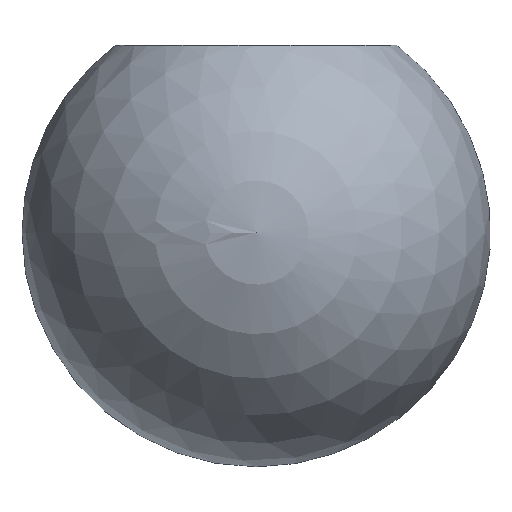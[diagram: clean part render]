
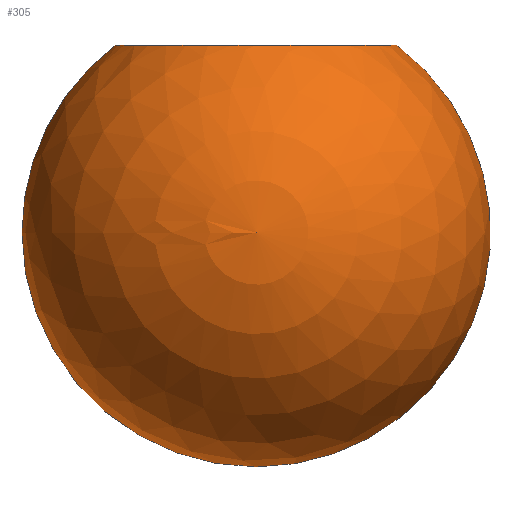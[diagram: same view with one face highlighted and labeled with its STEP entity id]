
A CAD part, left-side view. The second image highlights one B-rep face of the part: STEP entity #305.
In plain terms, the highlighted spherical face has radius 12.5 mm.
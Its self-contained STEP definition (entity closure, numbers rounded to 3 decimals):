
#8 = DIRECTION ( 'NONE',  ( 1., 0., 0. ) ) ;
#28 = CIRCLE ( 'NONE', #66, 12.5 ) ;
#65 = VERTEX_POINT ( 'NONE', #127 ) ;
#66 = AXIS2_PLACEMENT_3D ( 'NONE', #79, #69, #244 ) ;
#69 = DIRECTION ( 'NONE',  ( -1., 0., 0. ) ) ;
#78 = FACE_OUTER_BOUND ( 'NONE', #181, .T. ) ;
#79 = CARTESIAN_POINT ( 'NONE',  ( 0., 0., -10. ) ) ;
#91 = AXIS2_PLACEMENT_3D ( 'NONE', #98, #274, #297 ) ;
#98 = CARTESIAN_POINT ( 'NONE',  ( 0., 0., 0. ) ) ;
#122 = CARTESIAN_POINT ( 'NONE',  ( 0., 0., -10. ) ) ;
#127 = CARTESIAN_POINT ( 'NONE',  ( 0., 7.5, 0. ) ) ;
#145 = CIRCLE ( 'NONE', #338, 12.5 ) ;
#181 = EDGE_LOOP ( 'NONE', ( #200, #312, #472 ) ) ;
#189 = VERTEX_POINT ( 'NONE', #375 ) ;
#200 = ORIENTED_EDGE ( 'NONE', *, *, #314, .F. ) ;
#244 = DIRECTION ( 'NONE',  ( 0., -1., 0. ) ) ;
#272 = VERTEX_POINT ( 'NONE', #416 ) ;
#274 = DIRECTION ( 'NONE',  ( 0., 0., 1. ) ) ;
#275 = AXIS2_PLACEMENT_3D ( 'NONE', #122, #296, #460 ) ;
#296 = DIRECTION ( 'NONE',  ( -1., 0., 0. ) ) ;
#297 = DIRECTION ( 'NONE',  ( 1., 0., 0. ) ) ;
#305 = ADVANCED_FACE ( 'NONE', ( #78 ), #337, .T. ) ;
#311 = EDGE_CURVE ( 'NONE', #272, #189, #28, .T. ) ;
#312 = ORIENTED_EDGE ( 'NONE', *, *, #311, .T. ) ;
#314 = EDGE_CURVE ( 'NONE', #272, #65, #145, .T. ) ;
#333 = EDGE_CURVE ( 'NONE', #65, #189, #436, .T. ) ;
#337 = SPHERICAL_SURFACE ( 'NONE', #275, 12.5 ) ;
#338 = AXIS2_PLACEMENT_3D ( 'NONE', #411, #8, #424 ) ;
#375 = CARTESIAN_POINT ( 'NONE',  ( 0., -7.5, 0. ) ) ;
#411 = CARTESIAN_POINT ( 'NONE',  ( 0., 0., -10. ) ) ;
#416 = CARTESIAN_POINT ( 'NONE',  ( 0., 0., -22.5 ) ) ;
#424 = DIRECTION ( 'NONE',  ( 0., 0., -1. ) ) ;
#436 = CIRCLE ( 'NONE', #91, 7.5 ) ;
#460 = DIRECTION ( 'NONE',  ( 0., 1., 0. ) ) ;
#472 = ORIENTED_EDGE ( 'NONE', *, *, #333, .F. ) ;
